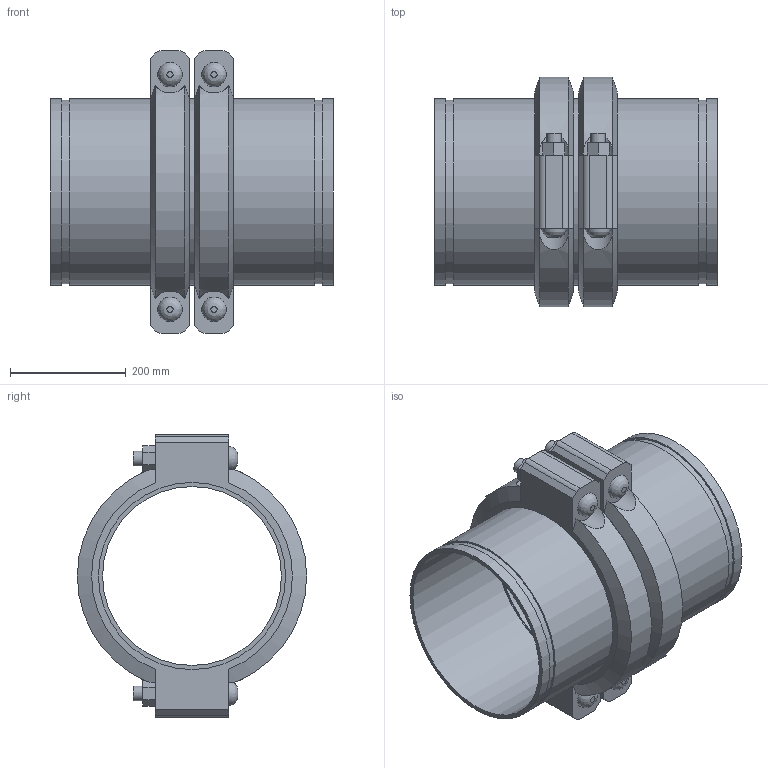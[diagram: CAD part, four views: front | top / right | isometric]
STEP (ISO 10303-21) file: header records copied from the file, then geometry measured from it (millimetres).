
FILE_DESCRIPTION(/* description */ ('VIC EXPANSION JOINT 2 COUPLINGS EXPANDED STYLE 155 (OGS)','CAx-IF Rec.Pracs.---Representation and Presentation of Product Manufacturing Information (PMI)---4.0---2014-10-13'),/* implementation_level */ '2;1');
FILE_NAME(/* name */ 'C:\Users\kkamble\AppData\Roaming\Autodesk\ApplicationPlugins\Victaulic.Temp\A706\Victaulic_IPS_Expansion Joint_Expanded_2 Couplings_Style 155 (OGS)_12 (300).stp',/* time_stamp */ '2021-06-26T23:57:04+02:00',/* author */ ('kkamble'),/* organization */ ('Victaulic'),/* preprocessor_version */ 'ST-DEVELOPER v17.2',/* originating_system */ 'Autodesk Inventor 2019',/* authorisation */ '');
FILE_SCHEMA (('AP242_MANAGED_MODEL_BASED_3D_ENGINEERING_MIM_LF { 1 0 10303 442 1 1 4 }'));
Length unit declared in the file: inch
Products named in the file (4): 155-12.0; Nipple-12.0; Nipple-12.0_1; 077-12.0
Assembly tree (5 placements, depth 2):
  155-12.0
    Nipple-12.0  x2
    Nipple-12.0_1
    077-12.0  x2
Bounding box: 488.95 x 397 x 488.95 mm (x, y, z)
Volume: 10013329.7 mm3; surface area: 1674718.8 mm2
Topology: 5 solids, 9 shells, 158 faces, 380 edges, 268 vertices
Faces by surface type: plane 90, cylinder 56, cone 8, bspline 4
Full cylindrical faces by diameter (mm): 25.4 x8, 27.432 x4, 309.677 x3, 314.96 x2, 318.287 x6, 323.85 x13
Entity records: 3009 total; most frequent: CARTESIAN_POINT 653, DIRECTION 465, ORIENTED_EDGE 410, EDGE_CURVE 205, AXIS2_PLACEMENT_3D 188, VERTEX_POINT 146, EDGE_LOOP 111, CIRCLE 96
